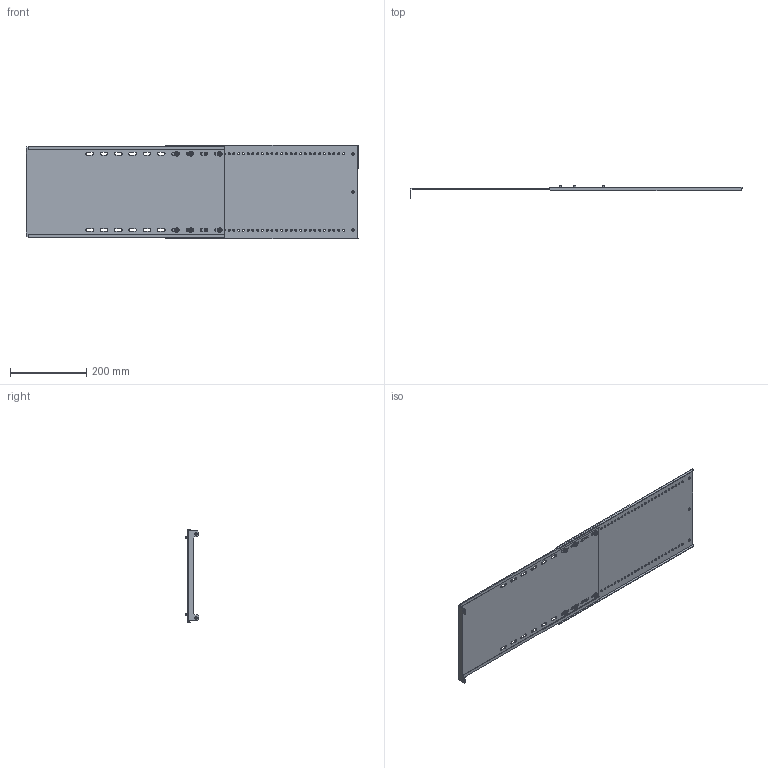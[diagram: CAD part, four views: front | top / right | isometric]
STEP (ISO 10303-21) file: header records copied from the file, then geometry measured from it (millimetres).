
FILE_DESCRIPTION (( 'STEP AP214' ), '1' );
FILE_NAME ('FO-00-SWVB-030-060 Ïåðåãîðîäêà ñåêöèîíèðîâàíèÿ âåðòèêàëüíàÿ äëÿ âåðòèêàëüíîãî øèííîãî îòñåêà 300õ600 ìì â øêàô ãëóáèíîé 1000 ìì.STEP', '2025-08-20T10:41:07', ( '' ), ( '' ), 'SwSTEP 2.0', 'SolidWorks 2023', '' );
FILE_SCHEMA (( 'AUTOMOTIVE_DESIGN' ));
Length unit declared in the file: millimetre
Products named in the file (4): Болты М5 х300; Перегородка секционирования ап 300х600; FO-00-SWVB-030-060 Перегородка секционирования вертикальная для вертикального шинного отсека 300х600 мм в шкаф глубиной 1000 мм; Перегородка секционирования 300х600
Assembly tree (5 placements, depth 2):
  FO-00-SWVB-030-060 Перегородка секционирования вертикальная для вертикального шинного отсека 300х600 мм в шкаф глубиной 1000 мм
    Перегородка секционирования 300х600
    Перегородка секционирования ап 300х600
    Болты М5 х300  x3
Bounding box: 870.37 x 35.7 x 244.5 mm (x, y, z)
Volume: 399137.2 mm3; surface area: 523144.6 mm2
Topology: 8 solids, 8 shells, 460 faces, 1260 edges, 828 vertices
Faces by surface type: cylinder 308, plane 116, torus 24, cone 12
Entity records: 11990 total; most frequent: DIRECTION 2172, CARTESIAN_POINT 1988, ORIENTED_EDGE 1968, EDGE_CURVE 984, AXIS2_PLACEMENT_3D 836, VERTEX_POINT 652, EDGE_LOOP 542, LINE 500
